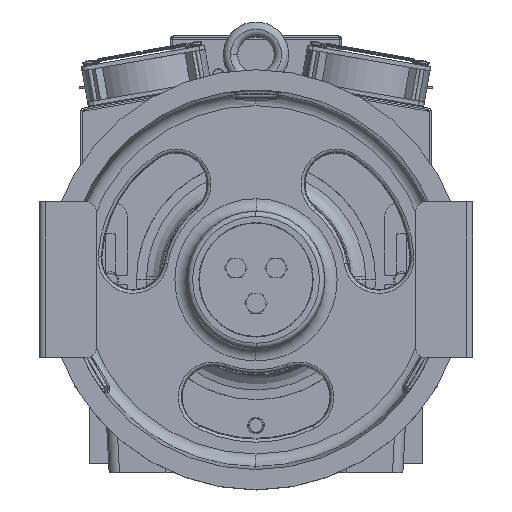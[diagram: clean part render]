
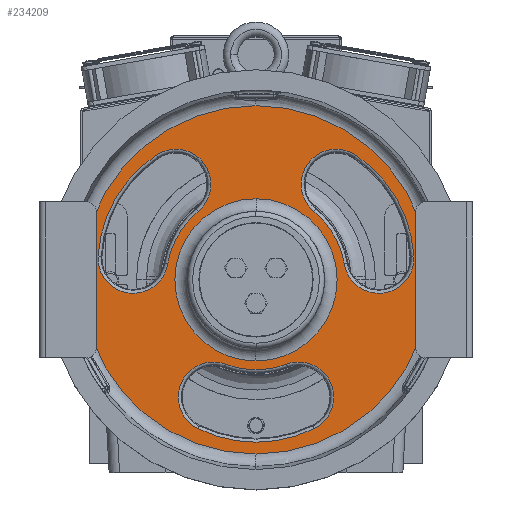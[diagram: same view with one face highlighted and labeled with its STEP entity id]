
A CAD part, top view. The second image highlights one B-rep face of the part: STEP entity #234209.
In plain terms, the highlighted planar face has unit normal (0, 0, 1) as drawn and (0, 0, -1) by its records, which use the part's own axes.
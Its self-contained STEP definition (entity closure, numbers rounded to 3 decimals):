
#229628=CARTESIAN_POINT('',(0.,0.,-10.));
#229629=DIRECTION('',(0.,0.,1.));
#229630=DIRECTION('',(0.,-1.,0.));
#229631=AXIS2_PLACEMENT_3D('',#229628,#229629,#229630);
#229633=CARTESIAN_POINT('',(0.,0.,-10.));
#229634=DIRECTION('',(0.,0.,1.));
#229635=DIRECTION('',(0.,1.,0.));
#229636=AXIS2_PLACEMENT_3D('',#229633,#229634,#229635);
#229638=CARTESIAN_POINT('',(0.,0.,-10.));
#229639=DIRECTION('',(0.,0.,-1.));
#229640=DIRECTION('',(0.,-1.,0.));
#229641=AXIS2_PLACEMENT_3D('',#229638,#229639,#229640);
#229643=CARTESIAN_POINT('',(0.,0.,-10.));
#229644=DIRECTION('',(0.,0.,-1.));
#229645=DIRECTION('',(0.,1.,0.));
#229646=AXIS2_PLACEMENT_3D('',#229643,#229644,#229645);
#229648=CARTESIAN_POINT('',(-41.042,-112.763,-10.));
#229649=DIRECTION('',(0.,0.,-1.));
#229650=DIRECTION('',(-0.444,-0.896,0.));
#229651=AXIS2_PLACEMENT_3D('',#229648,#229649,#229650);
#229653=CARTESIAN_POINT('',(0.,-2.664,-10.));
#229654=DIRECTION('',(0.,0.,1.));
#229655=DIRECTION('',(-0.349,-0.937,0.));
#229656=AXIS2_PLACEMENT_3D('',#229653,#229654,#229655);
#229658=CARTESIAN_POINT('',(41.042,-112.763,-10.));
#229659=DIRECTION('',(0.,0.,-1.));
#229660=DIRECTION('',(-0.349,0.937,0.));
#229661=AXIS2_PLACEMENT_3D('',#229658,#229659,#229660);
#229663=CARTESIAN_POINT('',(0.,-29.867,-10.));
#229664=DIRECTION('',(0.,0.,-1.));
#229665=DIRECTION('',(0.444,-0.896,0.));
#229666=AXIS2_PLACEMENT_3D('',#229663,#229664,#229665);
#229668=CARTESIAN_POINT('',(118.177,20.838,-10.));
#229669=DIRECTION('',(0.,0.,-1.));
#229670=DIRECTION('',(0.998,0.064,0.));
#229671=AXIS2_PLACEMENT_3D('',#229668,#229669,#229670);
#229673=CARTESIAN_POINT('',(2.307,1.332,-10.));
#229674=DIRECTION('',(0.,0.,1.));
#229675=DIRECTION('',(0.986,0.166,0.));
#229676=AXIS2_PLACEMENT_3D('',#229673,#229674,#229675);
#229678=CARTESIAN_POINT('',(77.135,91.925,-10.));
#229679=DIRECTION('',(0.,0.,-1.));
#229680=DIRECTION('',(-0.637,-0.771,0.));
#229681=AXIS2_PLACEMENT_3D('',#229678,#229679,#229680);
#229683=CARTESIAN_POINT('',(25.866,14.933,-10.));
#229684=DIRECTION('',(0.,0.,-1.));
#229685=DIRECTION('',(0.554,0.832,0.));
#229686=AXIS2_PLACEMENT_3D('',#229683,#229684,#229685);
#229688=CARTESIAN_POINT('',(-77.135,91.925,-10.));
#229689=DIRECTION('',(0.,0.,-1.));
#229690=DIRECTION('',(-0.554,0.832,0.));
#229691=AXIS2_PLACEMENT_3D('',#229688,#229689,#229690);
#229693=CARTESIAN_POINT('',(-2.307,1.332,-10.));
#229694=DIRECTION('',(0.,0.,1.));
#229695=DIRECTION('',(-0.637,0.771,0.));
#229696=AXIS2_PLACEMENT_3D('',#229693,#229694,#229695);
#229698=CARTESIAN_POINT('',(-118.177,20.838,-10.));
#229699=DIRECTION('',(0.,0.,-1.));
#229700=DIRECTION('',(0.986,-0.166,0.));
#229701=AXIS2_PLACEMENT_3D('',#229698,#229699,#229700);
#229703=CARTESIAN_POINT('',(-25.866,14.933,-10.));
#229704=DIRECTION('',(0.,0.,-1.));
#229705=DIRECTION('',(-0.998,0.064,0.));
#229706=AXIS2_PLACEMENT_3D('',#229703,#229704,#229705);
#233472=CARTESIAN_POINT('',(0.,-77.987,-10.));
#233473=CARTESIAN_POINT('',(0.,77.987,-10.));
#233474=VERTEX_POINT('',#233472);
#233475=VERTEX_POINT('',#233473);
#233476=CARTESIAN_POINT('',(0.,-167.491,-10.));
#233477=CARTESIAN_POINT('',(0.,167.491,-10.));
#233478=VERTEX_POINT('',#233476);
#233479=VERTEX_POINT('',#233477);
#233480=CARTESIAN_POINT('',(-56.018,-143.011,-10.));
#233481=CARTESIAN_POINT('',(-29.253,-81.137,-10.));
#233482=VERTEX_POINT('',#233480);
#233483=VERTEX_POINT('',#233481);
#233484=CARTESIAN_POINT('',(29.253,-81.137,-10.));
#233485=VERTEX_POINT('',#233484);
#233486=CARTESIAN_POINT('',(56.018,-143.011,-10.));
#233487=VERTEX_POINT('',#233486);
#233488=CARTESIAN_POINT('',(151.86,22.992,-10.));
#233489=CARTESIAN_POINT('',(84.893,15.235,-10.));
#233490=VERTEX_POINT('',#233488);
#233491=VERTEX_POINT('',#233489);
#233492=CARTESIAN_POINT('',(55.64,65.902,-10.));
#233493=VERTEX_POINT('',#233492);
#233494=CARTESIAN_POINT('',(95.842,120.019,-10.));
#233495=VERTEX_POINT('',#233494);
#233496=CARTESIAN_POINT('',(-95.842,120.019,-10.));
#233497=CARTESIAN_POINT('',(-55.64,65.902,-10.));
#233498=VERTEX_POINT('',#233496);
#233499=VERTEX_POINT('',#233497);
#233500=CARTESIAN_POINT('',(-84.893,15.235,-10.));
#233501=VERTEX_POINT('',#233500);
#233502=CARTESIAN_POINT('',(-151.86,22.992,-10.));
#233503=VERTEX_POINT('',#233502);
#234163=CARTESIAN_POINT('',(0.,0.,-10.));
#234164=DIRECTION('',(0.,0.,1.));
#234165=DIRECTION('',(0.,1.,0.));
#234166=AXIS2_PLACEMENT_3D('',#234163,#234164,#234165);
#234167=PLANE('',#234166);
#234169=ORIENTED_EDGE('',*,*,#234168,.T.);
#234171=ORIENTED_EDGE('',*,*,#234170,.T.);
#234172=EDGE_LOOP('',(#234169,#234171));
#234173=FACE_OUTER_BOUND('',#234172,.F.);
#234174=ORIENTED_EDGE('',*,*,#234152,.T.);
#234176=ORIENTED_EDGE('',*,*,#234175,.T.);
#234177=EDGE_LOOP('',(#234174,#234176));
#234178=FACE_BOUND('',#234177,.F.);
#234180=ORIENTED_EDGE('',*,*,#234179,.T.);
#234182=ORIENTED_EDGE('',*,*,#234181,.T.);
#234184=ORIENTED_EDGE('',*,*,#234183,.T.);
#234186=ORIENTED_EDGE('',*,*,#234185,.T.);
#234187=EDGE_LOOP('',(#234180,#234182,#234184,#234186));
#234188=FACE_BOUND('',#234187,.F.);
#234190=ORIENTED_EDGE('',*,*,#234189,.T.);
#234192=ORIENTED_EDGE('',*,*,#234191,.T.);
#234194=ORIENTED_EDGE('',*,*,#234193,.T.);
#234196=ORIENTED_EDGE('',*,*,#234195,.T.);
#234197=EDGE_LOOP('',(#234190,#234192,#234194,#234196));
#234198=FACE_BOUND('',#234197,.F.);
#234200=ORIENTED_EDGE('',*,*,#234199,.T.);
#234202=ORIENTED_EDGE('',*,*,#234201,.T.);
#234204=ORIENTED_EDGE('',*,*,#234203,.T.);
#234206=ORIENTED_EDGE('',*,*,#234205,.T.);
#234207=EDGE_LOOP('',(#234200,#234202,#234204,#234206));
#234208=FACE_BOUND('',#234207,.F.);
#234209=ADVANCED_FACE('',(#234173,#234178,#234188,#234198,#234208),#234167,.F.);
#229632=CIRCLE('',#229631,167.491);
#229637=CIRCLE('',#229636,167.491);
#229642=CIRCLE('',#229641,77.987);
#229647=CIRCLE('',#229646,77.987);
#229652=CIRCLE('',#229651,33.752);
#229657=CIRCLE('',#229656,83.748);
#229662=CIRCLE('',#229661,33.752);
#229667=CIRCLE('',#229666,126.252);
#229672=CIRCLE('',#229671,33.752);
#229677=CIRCLE('',#229676,83.748);
#229682=CIRCLE('',#229681,33.752);
#229687=CIRCLE('',#229686,126.252);
#229692=CIRCLE('',#229691,33.752);
#229697=CIRCLE('',#229696,83.748);
#229702=CIRCLE('',#229701,33.752);
#229707=CIRCLE('',#229706,126.252);
#234152=EDGE_CURVE('',#233474,#233475,#229642,.T.);
#234168=EDGE_CURVE('',#233478,#233479,#229632,.T.);
#234170=EDGE_CURVE('',#233479,#233478,#229637,.T.);
#234175=EDGE_CURVE('',#233475,#233474,#229647,.T.);
#234179=EDGE_CURVE('',#233482,#233483,#229652,.T.);
#234181=EDGE_CURVE('',#233483,#233485,#229657,.T.);
#234183=EDGE_CURVE('',#233485,#233487,#229662,.T.);
#234185=EDGE_CURVE('',#233487,#233482,#229667,.T.);
#234189=EDGE_CURVE('',#233490,#233491,#229672,.T.);
#234191=EDGE_CURVE('',#233491,#233493,#229677,.T.);
#234193=EDGE_CURVE('',#233493,#233495,#229682,.T.);
#234195=EDGE_CURVE('',#233495,#233490,#229687,.T.);
#234199=EDGE_CURVE('',#233498,#233499,#229692,.T.);
#234201=EDGE_CURVE('',#233499,#233501,#229697,.T.);
#234203=EDGE_CURVE('',#233501,#233503,#229702,.T.);
#234205=EDGE_CURVE('',#233503,#233498,#229707,.T.);
